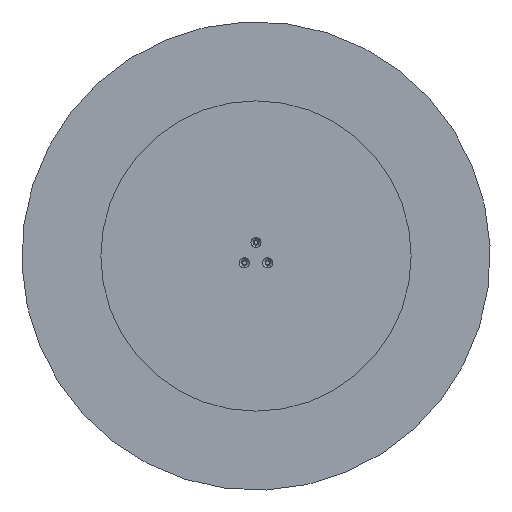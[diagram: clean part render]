
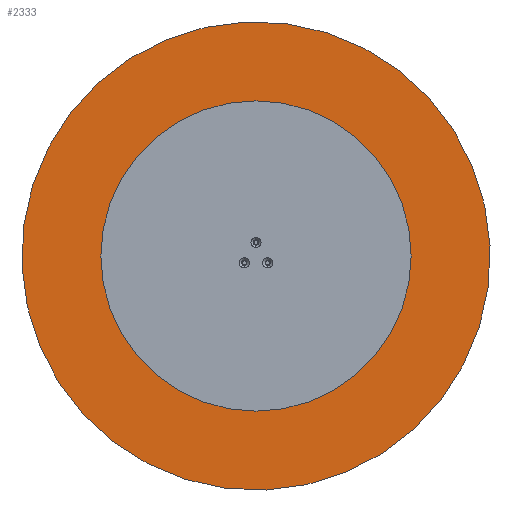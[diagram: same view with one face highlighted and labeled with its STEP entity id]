
A CAD part, front view. The second image highlights one B-rep face of the part: STEP entity #2333.
In plain terms, the highlighted planar face has unit normal (0, -1, 0).
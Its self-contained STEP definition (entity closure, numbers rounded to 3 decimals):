
#50 = VERTEX_POINT ( 'NONE', #838 ) ;
#229 = EDGE_LOOP ( 'NONE', ( #3020, #1585 ) ) ;
#323 = AXIS2_PLACEMENT_3D ( 'NONE', #921, #2074, #3613 ) ;
#395 = EDGE_CURVE ( 'NONE', #50, #460, #1131, .T. ) ;
#460 = VERTEX_POINT ( 'NONE', #1214 ) ;
#488 = AXIS2_PLACEMENT_3D ( 'NONE', #635, #653, #1767 ) ;
#635 = CARTESIAN_POINT ( 'NONE',  ( 0., 0., 0. ) ) ;
#653 = DIRECTION ( 'NONE',  ( 0., -1., 0. ) ) ;
#838 = CARTESIAN_POINT ( 'NONE',  ( 0., 0., 400. ) ) ;
#921 = CARTESIAN_POINT ( 'NONE',  ( 0., 0., 0. ) ) ;
#1131 = CIRCLE ( 'NONE', #323, 400. ) ;
#1214 = CARTESIAN_POINT ( 'NONE',  ( 0., 0., -400. ) ) ;
#1585 = ORIENTED_EDGE ( 'NONE', *, *, #395, .T. ) ;
#1767 = DIRECTION ( 'NONE',  ( 0., 0., -1. ) ) ;
#1871 = CIRCLE ( 'NONE', #488, 400. ) ;
#2074 = DIRECTION ( 'NONE',  ( 0., -1., 0. ) ) ;
#2109 = FACE_OUTER_BOUND ( 'NONE', #229, .T. ) ;
#2324 = DIRECTION ( 'NONE',  ( 0., 0., -1. ) ) ;
#2333 = ADVANCED_FACE ( 'NONE', ( #2109 ), #2982, .T. ) ;
#2671 = CARTESIAN_POINT ( 'NONE',  ( 0., 0., 0. ) ) ;
#2982 = PLANE ( 'NONE',  #3430 ) ;
#3020 = ORIENTED_EDGE ( 'NONE', *, *, #3153, .T. ) ;
#3153 = EDGE_CURVE ( 'NONE', #460, #50, #1871, .T. ) ;
#3430 = AXIS2_PLACEMENT_3D ( 'NONE', #2671, #3549, #2324 ) ;
#3549 = DIRECTION ( 'NONE',  ( 0., -1., 0. ) ) ;
#3613 = DIRECTION ( 'NONE',  ( 0., 0., -1. ) ) ;
